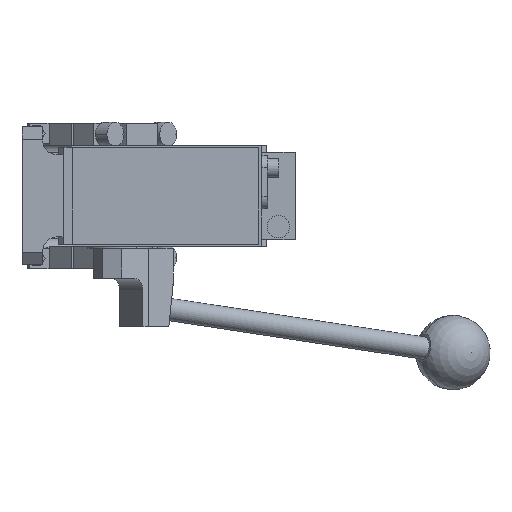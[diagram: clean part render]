
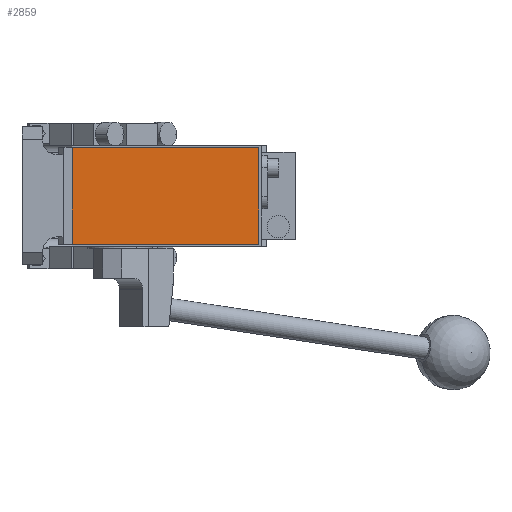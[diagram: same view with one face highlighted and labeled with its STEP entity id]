
A CAD part, front view. The second image highlights one B-rep face of the part: STEP entity #2859.
In plain terms, the highlighted planar face has unit normal (0, -1, 0).
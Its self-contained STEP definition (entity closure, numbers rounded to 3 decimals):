
#91 = ORIENTED_EDGE ( 'NONE', *, *, #10572, .T. ) ;
#1224 = LINE ( 'NONE', #14695, #14462 ) ;
#1266 = CARTESIAN_POINT ( 'NONE',  ( -19., -286.5, 26. ) ) ;
#1341 = DIRECTION ( 'NONE',  ( 0., 0., -1. ) ) ;
#2797 = VERTEX_POINT ( 'NONE', #7018 ) ;
#2859 = ADVANCED_FACE ( 'NONE', ( #7177 ), #4654, .T. ) ;
#3184 = EDGE_CURVE ( 'NONE', #6812, #11298, #4540, .T. ) ;
#3410 = DIRECTION ( 'NONE',  ( 0., -1., 0. ) ) ;
#3851 = VECTOR ( 'NONE', #1341, 1000. ) ;
#4540 = LINE ( 'NONE', #7160, #9597 ) ;
#4654 = PLANE ( 'NONE',  #9051 ) ;
#6255 = CARTESIAN_POINT ( 'NONE',  ( -19., -286.5, 26. ) ) ;
#6439 = VERTEX_POINT ( 'NONE', #8769 ) ;
#6812 = VERTEX_POINT ( 'NONE', #7575 ) ;
#7018 = CARTESIAN_POINT ( 'NONE',  ( -19., -286.5, -26. ) ) ;
#7160 = CARTESIAN_POINT ( 'NONE',  ( -19., -286.5, 26. ) ) ;
#7177 = FACE_OUTER_BOUND ( 'NONE', #11778, .T. ) ;
#7275 = CARTESIAN_POINT ( 'NONE',  ( 81., -286.5, 26. ) ) ;
#7318 = DIRECTION ( 'NONE',  ( 1., 0., 0. ) ) ;
#7575 = CARTESIAN_POINT ( 'NONE',  ( 81., -286.5, 26. ) ) ;
#7876 = EDGE_CURVE ( 'NONE', #11298, #2797, #10023, .T. ) ;
#8639 = DIRECTION ( 'NONE',  ( 0., 0., -1. ) ) ;
#8769 = CARTESIAN_POINT ( 'NONE',  ( 81., -286.5, -26. ) ) ;
#8798 = ORIENTED_EDGE ( 'NONE', *, *, #3184, .T. ) ;
#8807 = VECTOR ( 'NONE', #11174, 1000. ) ;
#8911 = EDGE_CURVE ( 'NONE', #6439, #6812, #11091, .T. ) ;
#9051 = AXIS2_PLACEMENT_3D ( 'NONE', #9773, #3410, #8639 ) ;
#9597 = VECTOR ( 'NONE', #15749, 1000. ) ;
#9773 = CARTESIAN_POINT ( 'NONE',  ( 0., -286.5, 0. ) ) ;
#10023 = LINE ( 'NONE', #1266, #3851 ) ;
#10572 = EDGE_CURVE ( 'NONE', #2797, #6439, #1224, .T. ) ;
#11091 = LINE ( 'NONE', #7275, #8807 ) ;
#11174 = DIRECTION ( 'NONE',  ( 0., 0., 1. ) ) ;
#11298 = VERTEX_POINT ( 'NONE', #6255 ) ;
#11778 = EDGE_LOOP ( 'NONE', ( #13788, #91, #16061, #8798 ) ) ;
#13788 = ORIENTED_EDGE ( 'NONE', *, *, #7876, .T. ) ;
#14462 = VECTOR ( 'NONE', #7318, 1000. ) ;
#14695 = CARTESIAN_POINT ( 'NONE',  ( -19., -286.5, -26. ) ) ;
#15749 = DIRECTION ( 'NONE',  ( -1., 0., 0. ) ) ;
#16061 = ORIENTED_EDGE ( 'NONE', *, *, #8911, .T. ) ;
